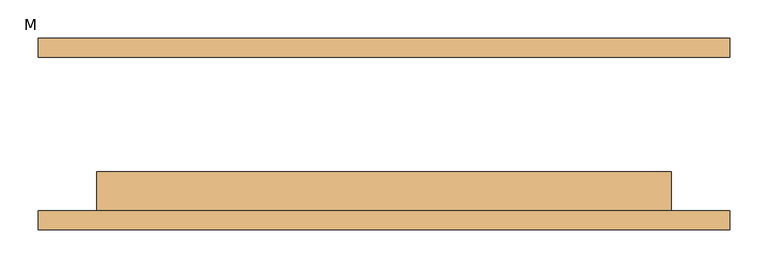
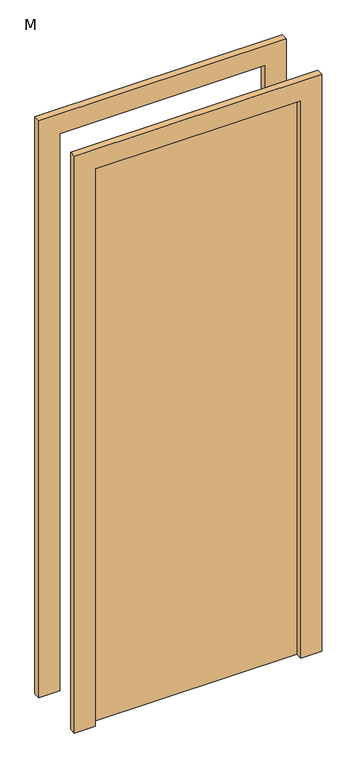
"""IFC4 building model written with IfcOpenShell, lengths in millimetres: door geometry, 单扇 - 与墙齐 : M."""

from ifc_helpers import new_model, si_unit, frame, origin, origin_with_axes, place, context, project, spatial, polyline, outline, extrude, source, transform, mapped, element, save


def m_580c2f92(model_context):
    return source(origin(), model_context, "Body", "SweptSolid", [
        extrude(outline(polyline([(2226.0, -451.0), (0.0, -451.0), (0.0, -375.0), (2150.0, -375.0), (2150.0, 375.0), (0.0, 375.0), (0.0, 451.0), (2226.0, 451.0), (2226.0, -451.0)])), frame((0.0, -125.0, 0.0), z_axis=(0.0, 1.0, 0.0), x_axis=(0.0, 0.0, 1.0)), (0.0, 0.0, 1.0), 25.0),
        extrude(outline(polyline([(2226.0, 451.0), (2226.0, -451.0), (0.0, -451.0), (0.0, -375.0), (2150.0, -375.0), (2150.0, 375.0), (0.0, 375.0), (0.0, 451.0), (2226.0, 451.0)])), frame((0.0, 100.0, 0.0), z_axis=(0.0, 1.0, 0.0), x_axis=(0.0, 0.0, 1.0)), (0.0, 0.0, 1.0), 25.0),
        extrude(outline(polyline([(375.0, -49.0), (375.0, -100.0), (-375.0, -100.0), (-375.0, -49.0), (375.0, -49.0)])), origin_with_axes(), (0.0, 0.0, 1.0), 2150.0),
    ])


if __name__ == "__main__":
    model = new_model("IFC4")
    model_context = context("Model", 3, world=origin())
    ifc_project = project(units=[si_unit("LENGTHUNIT", "METRE", prefix="MILLI")], contexts=[model_context])
    site = spatial("IfcSite", under=ifc_project)
    building = spatial("IfcBuilding", under=site)
    placement = place(None, origin())
    m_shape = m_580c2f92(model_context)
    element("IfcDoor", 1, ObjectType="单扇 - 与墙齐 : M", at=placement, inside=building, context=model_context, shape_type="MappedRepresentation", body=[
        mapped(m_shape, transform((0.0, 0.0, 0.0), x_axis=(1.0, 0.0, 0.0), y_axis=(0.0, 1.0, 0.0), z_axis=(0.0, 0.0, 1.0))),
    ])
    save(model, "model.ifc")
